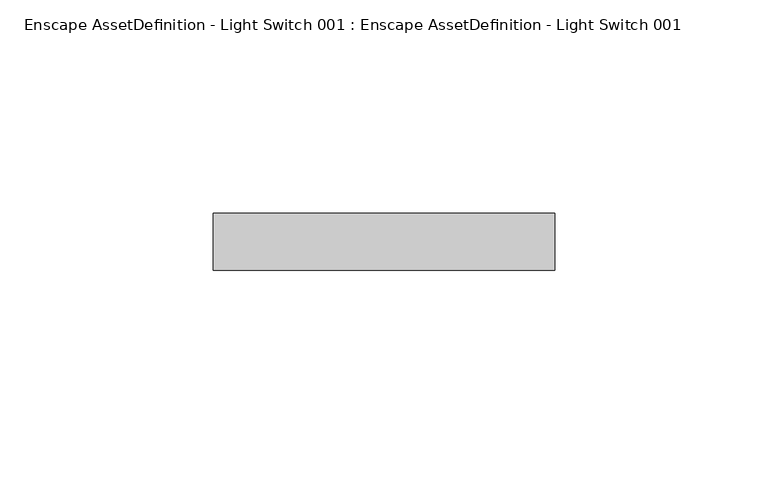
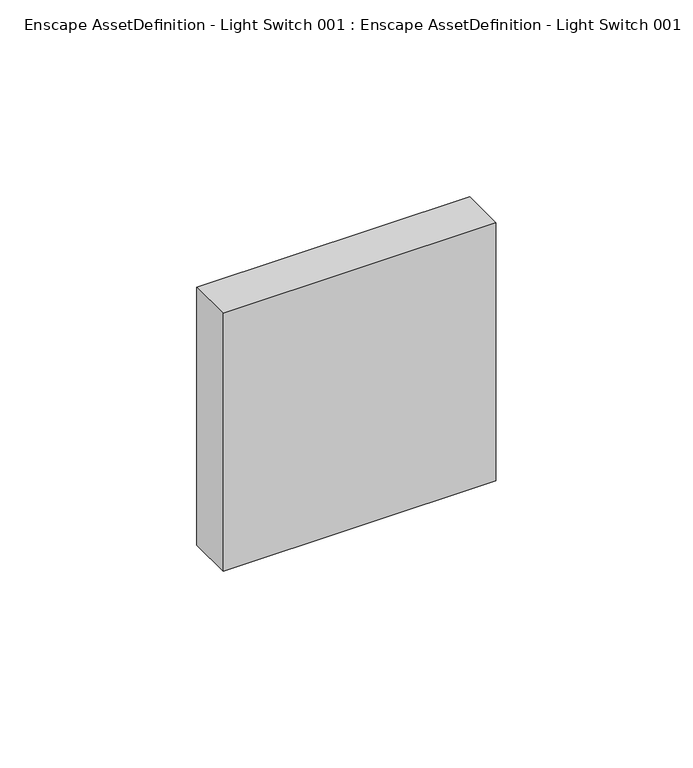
"""IFC4 building model written with IfcOpenShell, lengths in millimetres: geographic element geometry, Enscape AssetDefinition - Light Switch 001 : Enscape AssetDefinition - Light Switch 001."""

import ifcopenshell
import ifcopenshell.guid

model = None  # the IFC model being written
_history = None  # IfcOwnerHistory: only IFC2X3 demands one
_inside = {}  # id of a spatial element -> (the spatial element, [elements in it])
_under = {}  # id of a project, library or spatial element -> (it, [spatial elements below it])
_declared = {}  # id of a project -> (the project, [libraries it declares])
_typed = {}  # id of a type object -> (the type object, [elements of that type])
_made_of = {}  # id of a material, layer set ... -> (it, [elements and type objects made of it])


def new_model(schema):
    """Start an empty IFC model of exactly this schema.

    Asked for "IFC4X3", IfcOpenShell would pick the latest addendum, in which some entities
    have other attributes; the version numbers below select the first issue.
    IFC2X3 requires an IfcOwnerHistory on every rooted entity: one is made here for all.
    """
    global model, _history
    if schema == "IFC4X3":
        model = ifcopenshell.file(schema_version=(4, 3, 0, 0))
    else:
        model = ifcopenshell.file(schema=schema)
    _inside.clear()
    _under.clear()
    _declared.clear()
    _typed.clear()
    _made_of.clear()
    _history = None
    if model.schema == "IFC2X3":
        org = make("IfcOrganization", Name="unknown")
        user = make(
            "IfcPersonAndOrganization",
            ThePerson=make("IfcPerson", FamilyName="unknown"),
            TheOrganization=org,
        )
        app = make(
            "IfcApplication",
            ApplicationDeveloper=org,
            Version="unknown",
            ApplicationFullName="unknown",
            ApplicationIdentifier="unknown",
        )
        _history = make(
            "IfcOwnerHistory",
            OwningUser=user,
            OwningApplication=app,
            ChangeAction="ADDED",
            CreationDate=0,
        )
    return model


def make(cls, **values):
    """One entity of the class cls with the attributes given. An attribute that is None is left unset."""
    return model.create_entity(
        cls, **{name: value for name, value in values.items() if value is not None}
    )


def rooted(cls, **values):
    """An entity with a GlobalId (a new one), such as an element, a storey or a relation."""
    return make(cls, GlobalId=ifcopenshell.guid.new(), OwnerHistory=_history, **values)


def si_unit(unit_type, name, prefix=None):
    """IfcSIUnit, for example si_unit("LENGTHUNIT", "METRE", prefix="MILLI")."""
    return make("IfcSIUnit", UnitType=unit_type, Prefix=prefix, Name=name)


def assignment(units):
    """IfcUnitAssignment: the units of a project."""
    return None if units is None else make("IfcUnitAssignment", Units=units)


def point(xyz):
    """IfcCartesianPoint."""
    return None if xyz is None else make("IfcCartesianPoint", Coordinates=xyz)


def direction(xyz):
    """IfcDirection."""
    return None if xyz is None else make("IfcDirection", DirectionRatios=xyz)


def frame(location, z_axis=None, x_axis=None):
    """IfcAxis2Placement3D, a coordinate frame: its origin and axes. An axis left out is left unset."""
    return make(
        "IfcAxis2Placement3D",
        Location=point(location),
        Axis=direction(z_axis),
        RefDirection=direction(x_axis),
    )


def origin():
    """The frame at (0, 0, 0) with its axes left unset."""
    return frame((0.0, 0.0, 0.0))


def place(relative_to, where):
    """IfcLocalPlacement: puts the frame where relative to a parent placement (None: the world)."""
    return make(
        "IfcLocalPlacement", PlacementRelTo=relative_to, RelativePlacement=where
    )


def context(
    kind, dimensions, precision=None, world=None, true_north=None, identifier=None
):
    """IfcGeometricRepresentationContext, for example the 3D "Model" context."""
    return make(
        "IfcGeometricRepresentationContext",
        ContextIdentifier=identifier,
        ContextType=kind,
        CoordinateSpaceDimension=dimensions,
        Precision=precision,
        WorldCoordinateSystem=world,
        TrueNorth=true_north,
    )


def project(units=None, contexts=None):
    """IfcProject with its units and contexts."""
    return rooted(
        "IfcProject",
        Name="project",
        RepresentationContexts=contexts,
        UnitsInContext=assignment(units),
    )


def spatial(cls, under=None, at=None, **own):
    """A site, building, storey or space (cls), placed at a placement, below another one or the project."""
    s = rooted(cls, ObjectPlacement=at, **own)
    if under is not None:
        _under.setdefault(under.id(), (under, []))[1].append(s)
    return s


def point_list(points):
    """IfcCartesianPointList2D or 3D."""
    cls = (
        "IfcCartesianPointList2D" if len(points[0]) == 2 else "IfcCartesianPointList3D"
    )
    return make(cls, CoordList=points)


def triangles(points, corners, closed=None, point_numbers=None):
    """IfcTriangulatedFaceSet: each triangle names its three corners, points numbered from 1."""
    return make(
        "IfcTriangulatedFaceSet",
        Coordinates=point_list(points),
        Closed=closed,
        CoordIndex=corners,
        PnIndex=point_numbers,
    )


def shape(context_of_items, identifier, shape_type, items):
    """IfcShapeRepresentation: the items that make up one representation, for example the "Body"."""
    return make(
        "IfcShapeRepresentation",
        ContextOfItems=context_of_items,
        RepresentationIdentifier=identifier,
        RepresentationType=shape_type,
        Items=items,
    )


def source(mapping_origin, context_of_items, identifier, shape_type, items):
    """IfcRepresentationMap: a shape defined once, which mapped items show again and again."""
    return make(
        "IfcRepresentationMap",
        MappingOrigin=mapping_origin,
        MappedRepresentation=shape(context_of_items, identifier, shape_type, items),
    )


def transform(
    local_origin,
    x_axis=None,
    y_axis=None,
    z_axis=None,
    scale=None,
    scale2=None,
    scale3=None,
    uniform=True,
):
    """IfcCartesianTransformationOperator3D, or its non-uniform kind. x_axis, y_axis, z_axis: its Axis1, 2, 3."""
    if uniform:
        return make(
            "IfcCartesianTransformationOperator3D",
            Axis1=direction(x_axis),
            Axis2=direction(y_axis),
            LocalOrigin=point(local_origin),
            Scale=scale,
            Axis3=direction(z_axis),
        )
    return make(
        "IfcCartesianTransformationOperator3DnonUniform",
        Axis1=direction(x_axis),
        Axis2=direction(y_axis),
        LocalOrigin=point(local_origin),
        Scale=scale,
        Axis3=direction(z_axis),
        Scale2=scale2,
        Scale3=scale3,
    )


def mapped(mapping_source, mapping_target):
    """IfcMappedItem: shows the shape of a source again, moved by a transform."""
    return make(
        "IfcMappedItem", MappingSource=mapping_source, MappingTarget=mapping_target
    )


def made_of(thing, what):
    """Note that an element or type object is made of a material, layer set ...; save() writes the relation."""
    if what is not None:
        _made_of.setdefault(what.id(), (what, []))[1].append(thing)
    return thing


def element(
    cls,
    number,
    at=None,
    inside=None,
    cuts=None,
    type_object=None,
    material=None,
    context=None,
    identifier="Body",
    shape_type=None,
    held_by="IfcProductDefinitionShape",
    body=None,
    shapes=None,
    **own,
):
    """One element of the class cls, such as IfcWall. Its Tag is "e" and its number.

    at: its placement. inside: the storey or other place that contains it. cuts: it is an
    opening in that element (IfcRelVoidsElement). A single representation is given by context,
    identifier, shape_type and body (its items); several are given by shapes. held_by: the class
    of the entity that holds the representations. save() writes the other relations.
    """
    e = rooted(cls, Tag="e%d" % number, ObjectPlacement=at, **own)
    if body is not None:
        shapes = [shape(context, identifier, shape_type, body)]
    if shapes is not None:
        e.Representation = make(held_by, Representations=shapes)
    if inside is not None:
        _inside.setdefault(inside.id(), (inside, []))[1].append(e)
    if cuts is not None:
        rooted(
            "IfcRelVoidsElement", RelatingBuildingElement=cuts, RelatedOpeningElement=e
        )
    if type_object is not None:
        _typed.setdefault(type_object.id(), (type_object, []))[1].append(e)
    return made_of(e, material)


def aggregate(whole, parts):
    """IfcRelAggregates: a whole, such as a stair, and the parts it consists of."""
    return rooted("IfcRelAggregates", RelatingObject=whole, RelatedObjects=parts)


def save(model, path):
    """Write the relations noted so far, then the file.

    IfcRelAggregates (storeys below a building ...), IfcRelContainedInSpatialStructure (elements
    in a storey), IfcRelDefinesByType, IfcRelAssociatesMaterial and IfcRelDeclares: one each for
    every whole, place, type object, material and project.
    """
    for whole, parts in _under.values():
        aggregate(whole, parts)
    for where, things in _inside.values():
        rooted(
            "IfcRelContainedInSpatialStructure",
            RelatedElements=things,
            RelatingStructure=where,
        )
    for kind, things in _typed.values():
        rooted("IfcRelDefinesByType", RelatedObjects=things, RelatingType=kind)
    for what, things in _made_of.values():
        rooted("IfcRelAssociatesMaterial", RelatedObjects=things, RelatingMaterial=what)
    for by, libraries in _declared.values():
        rooted("IfcRelDeclares", RelatingContext=by, RelatedDefinitions=libraries)
    model.write(path)


def enscape_assetdefinition_light_switch_001_enscape_6b1c9711(model_context):
    return source(origin(), model_context, "Body", "Tessellation", [
        triangles([(39.9999976, -13.329, 39.9999976), (39.9999976, 0.0, 39.9999976), (-39.9999976, 0.0, 39.9999976), (-39.9999976, -13.329, 39.9999976), (-39.9999976, -13.329, -39.9999976), (-39.9999976, 0.0, -39.9999976), (39.9999976, -13.329, -39.9999976), (39.9999976, 0.0, -39.9999976)], [[7, 6, 8], [5, 6, 7], [2, 8, 6], [3, 2, 6], [1, 7, 8], [2, 1, 8], [4, 5, 7], [1, 4, 7], [3, 6, 5], [4, 3, 5], [1, 2, 3], [4, 1, 3]]),
    ])


if __name__ == "__main__":
    model = new_model("IFC4")
    model_context = context("Model", 3, world=origin())
    ifc_project = project(units=[si_unit("LENGTHUNIT", "METRE", prefix="MILLI")], contexts=[model_context])
    site = spatial("IfcSite", under=ifc_project)
    building = spatial("IfcBuilding", under=site)
    placement = place(None, origin())
    enscape_assetdefinition_light_switch_001_enscape_shape = enscape_assetdefinition_light_switch_001_enscape_6b1c9711(model_context)
    element("IfcGeographicElement", 1, ObjectType="Enscape AssetDefinition - Light Switch 001 : Enscape AssetDefinition - Light Switch 001", at=placement, inside=building, context=model_context, shape_type="MappedRepresentation", body=[
        mapped(enscape_assetdefinition_light_switch_001_enscape_shape, transform((0.0, 0.0, 0.0), x_axis=(1.0, 0.0, 0.0), y_axis=(0.0, 1.0, 0.0), z_axis=(0.0, 0.0, 1.0))),
    ])
    save(model, "model.ifc")
